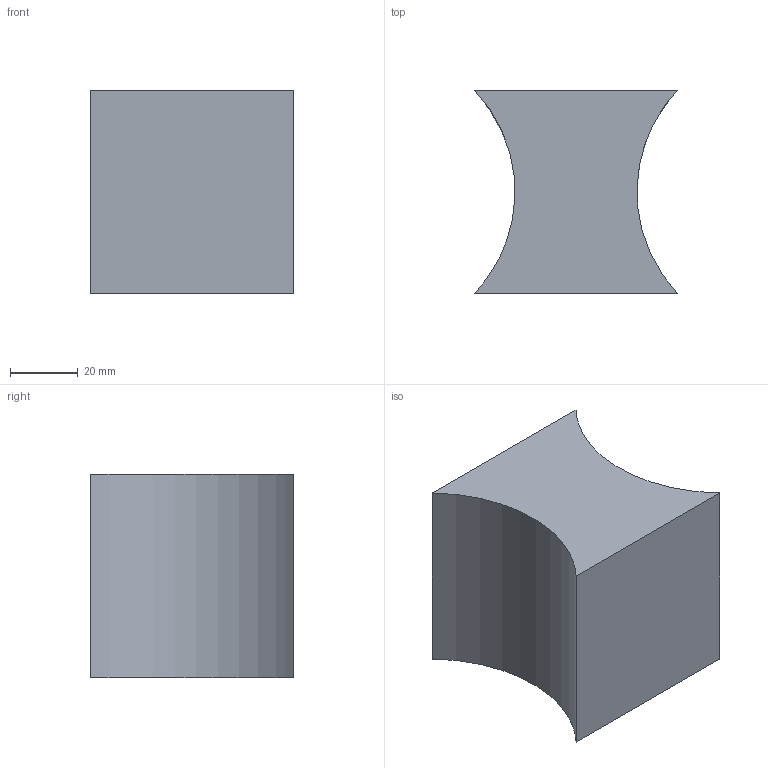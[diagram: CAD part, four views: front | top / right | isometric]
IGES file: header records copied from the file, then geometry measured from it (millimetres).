
Global section: file name: G_Ex_10_4; native system: AutoCAD 2016 - Español (Spanish),; preprocessor: Autodesk Translation Framework DWG producer (atf_dwg_producer); organization: unknown; date: 20200816.224256; units: millimetre
Bounding box: 60 x 60 x 60 mm (x, y, z)
Volume: 156596.8 mm3; surface area: 20364.9 mm2
Topology: 1 solids, 1 shells, 6 faces, 12 edges, 8 vertices
Faces by surface type: bspline 6
